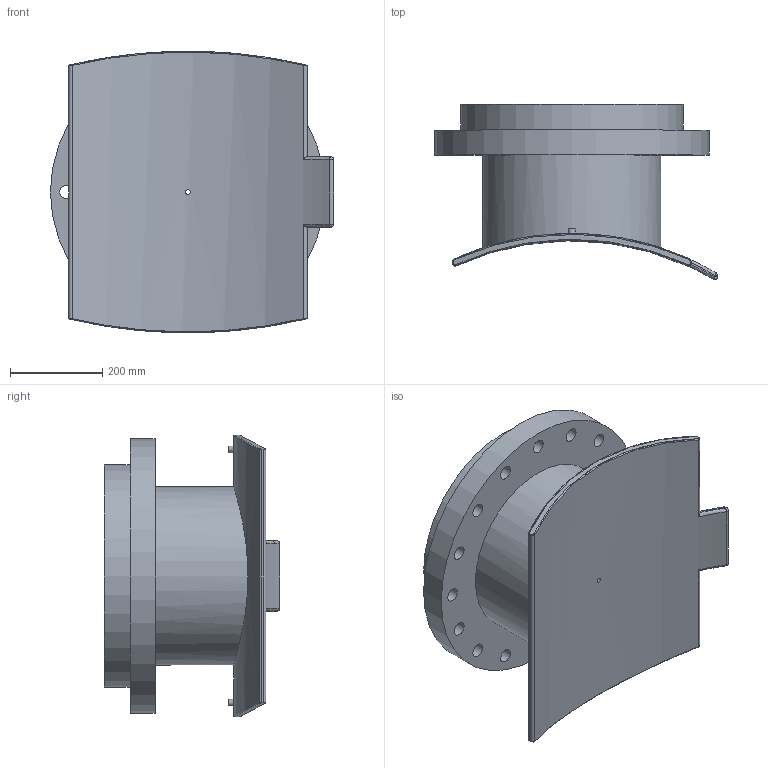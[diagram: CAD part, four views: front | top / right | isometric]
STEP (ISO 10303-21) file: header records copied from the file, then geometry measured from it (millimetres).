
FILE_DESCRIPTION(/* description */ ('PLASSON FLANGED BRANCH SADDLE 1200X400'),/* implementation_level */ '2;1');
FILE_NAME(/* name */ 'C:\Dropbox\KIMPROJECTS-Inventor\99-16-3568-Processing\ElectroFusion Fittings\495904_495903\495904_495903.ipt.stp',/* time_stamp */ '2019-02-24T12:59:15+02:00',/* author */ ('KIM'),/* organization */ (''),/* preprocessor_version */ 'ST-DEVELOPER v15.6',/* originating_system */ 'Autodesk Inventor 2015',/* authorisation */ '');
FILE_SCHEMA (('AUTOMOTIVE_DESIGN { 1 0 10303 214 3 1 1 }'));
Length unit declared in the file: millimetre
Products named in the file (1): 495904_495903
Bounding box: 613.2 x 380.11 x 609.9 mm (x, y, z)
Volume: 26251263 mm3; surface area: 1782365.3 mm2
Topology: 1 solids, 1 shells, 83 faces, 201 edges, 142 vertices
Faces by surface type: cylinder 45, plane 16, bspline 12, sphere 4, torus 4, cone 2
Full cylindrical faces by diameter (mm): 4 x2, 10 x2, 10.4 x1, 16 x1, 30 x16, 327 x1, 385.6 x1, 482 x1, 595 x1
Entity records: 3174 total; most frequent: CARTESIAN_POINT 1339, DIRECTION 371, ORIENTED_EDGE 308, AXIS2_PLACEMENT_3D 168, EDGE_LOOP 156, EDGE_CURVE 154, VERTEX_POINT 112, CIRCLE 96
